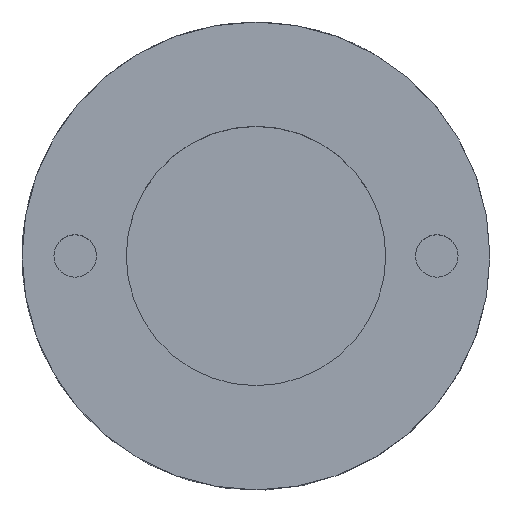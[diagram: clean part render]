
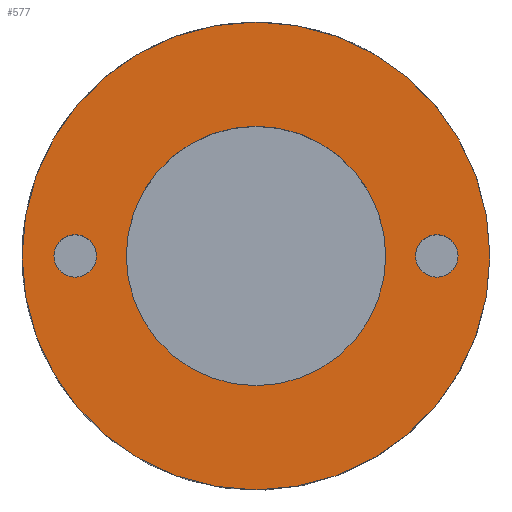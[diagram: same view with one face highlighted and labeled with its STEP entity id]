
A CAD part, top view. The second image highlights one B-rep face of the part: STEP entity #577.
In plain terms, the highlighted planar face has unit normal (0, 0, 1).
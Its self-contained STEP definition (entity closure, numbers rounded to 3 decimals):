
#24 = VERTEX_POINT('',#25);
#25 = CARTESIAN_POINT('',(5.5,0.,14.8));
#32 = CYLINDRICAL_SURFACE('',#33,5.5);
#33 = AXIS2_PLACEMENT_3D('',#34,#35,#36);
#34 = CARTESIAN_POINT('',(0.,0.,10.9));
#35 = DIRECTION('',(0.,0.,1.));
#36 = DIRECTION('',(1.,0.,-0.));
#51 = EDGE_CURVE('',#24,#24,#52,.T.);
#52 = SURFACE_CURVE('',#53,(#58,#65),.PCURVE_S1.);
#53 = CIRCLE('',#54,5.5);
#54 = AXIS2_PLACEMENT_3D('',#55,#56,#57);
#55 = CARTESIAN_POINT('',(0.,0.,14.8));
#56 = DIRECTION('',(0.,0.,1.));
#57 = DIRECTION('',(1.,0.,-0.));
#58 = PCURVE('',#32,#59);
#59 = DEFINITIONAL_REPRESENTATION('',(#60),#64);
#60 = LINE('',#61,#62);
#61 = CARTESIAN_POINT('',(0.,3.9));
#62 = VECTOR('',#63,1.);
#63 = DIRECTION('',(1.,0.));
#64 = ( GEOMETRIC_REPRESENTATION_CONTEXT(2) 
PARAMETRIC_REPRESENTATION_CONTEXT() REPRESENTATION_CONTEXT('2D SPACE',''
  ) );
#65 = PCURVE('',#66,#71);
#66 = PLANE('',#67);
#67 = AXIS2_PLACEMENT_3D('',#68,#69,#70);
#68 = CARTESIAN_POINT('',(0.,0.,14.8));
#69 = DIRECTION('',(0.,0.,1.));
#70 = DIRECTION('',(1.,0.,-0.));
#71 = DEFINITIONAL_REPRESENTATION('',(#72),#76);
#72 = CIRCLE('',#73,5.5);
#73 = AXIS2_PLACEMENT_2D('',#74,#75);
#74 = CARTESIAN_POINT('',(0.,0.));
#75 = DIRECTION('',(1.,0.));
#76 = ( GEOMETRIC_REPRESENTATION_CONTEXT(2) 
PARAMETRIC_REPRESENTATION_CONTEXT() REPRESENTATION_CONTEXT('2D SPACE',''
  ) );
#577 = ADVANCED_FACE('',(#578,#581,#612,#643),#66,.T.);
#578 = FACE_BOUND('',#579,.T.);
#579 = EDGE_LOOP('',(#580));
#580 = ORIENTED_EDGE('',*,*,#51,.T.);
#581 = FACE_BOUND('',#582,.T.);
#582 = EDGE_LOOP('',(#583));
#583 = ORIENTED_EDGE('',*,*,#584,.F.);
#584 = EDGE_CURVE('',#585,#585,#587,.T.);
#585 = VERTEX_POINT('',#586);
#586 = CARTESIAN_POINT('',(-3.75,0.,14.8));
#587 = SURFACE_CURVE('',#588,(#593,#600),.PCURVE_S1.);
#588 = CIRCLE('',#589,0.5);
#589 = AXIS2_PLACEMENT_3D('',#590,#591,#592);
#590 = CARTESIAN_POINT('',(-4.25,0.,14.8));
#591 = DIRECTION('',(0.,0.,1.));
#592 = DIRECTION('',(1.,0.,-0.));
#593 = PCURVE('',#66,#594);
#594 = DEFINITIONAL_REPRESENTATION('',(#595),#599);
#595 = CIRCLE('',#596,0.5);
#596 = AXIS2_PLACEMENT_2D('',#597,#598);
#597 = CARTESIAN_POINT('',(-4.25,0.));
#598 = DIRECTION('',(1.,0.));
#599 = ( GEOMETRIC_REPRESENTATION_CONTEXT(2) 
PARAMETRIC_REPRESENTATION_CONTEXT() REPRESENTATION_CONTEXT('2D SPACE',''
  ) );
#600 = PCURVE('',#601,#606);
#601 = CYLINDRICAL_SURFACE('',#602,0.5);
#602 = AXIS2_PLACEMENT_3D('',#603,#604,#605);
#603 = CARTESIAN_POINT('',(-4.25,0.,12.9));
#604 = DIRECTION('',(0.,0.,1.));
#605 = DIRECTION('',(1.,0.,-0.));
#606 = DEFINITIONAL_REPRESENTATION('',(#607),#611);
#607 = LINE('',#608,#609);
#608 = CARTESIAN_POINT('',(0.,1.9));
#609 = VECTOR('',#610,1.);
#610 = DIRECTION('',(1.,0.));
#611 = ( GEOMETRIC_REPRESENTATION_CONTEXT(2) 
PARAMETRIC_REPRESENTATION_CONTEXT() REPRESENTATION_CONTEXT('2D SPACE',''
  ) );
#612 = FACE_BOUND('',#613,.T.);
#613 = EDGE_LOOP('',(#614));
#614 = ORIENTED_EDGE('',*,*,#615,.F.);
#615 = EDGE_CURVE('',#616,#616,#618,.T.);
#616 = VERTEX_POINT('',#617);
#617 = CARTESIAN_POINT('',(3.05,0.,14.8));
#618 = SURFACE_CURVE('',#619,(#624,#631),.PCURVE_S1.);
#619 = CIRCLE('',#620,3.05);
#620 = AXIS2_PLACEMENT_3D('',#621,#622,#623);
#621 = CARTESIAN_POINT('',(0.,0.,14.8));
#622 = DIRECTION('',(0.,0.,1.));
#623 = DIRECTION('',(1.,0.,-0.));
#624 = PCURVE('',#66,#625);
#625 = DEFINITIONAL_REPRESENTATION('',(#626),#630);
#626 = CIRCLE('',#627,3.05);
#627 = AXIS2_PLACEMENT_2D('',#628,#629);
#628 = CARTESIAN_POINT('',(0.,0.));
#629 = DIRECTION('',(1.,0.));
#630 = ( GEOMETRIC_REPRESENTATION_CONTEXT(2) 
PARAMETRIC_REPRESENTATION_CONTEXT() REPRESENTATION_CONTEXT('2D SPACE',''
  ) );
#631 = PCURVE('',#632,#637);
#632 = CYLINDRICAL_SURFACE('',#633,3.05);
#633 = AXIS2_PLACEMENT_3D('',#634,#635,#636);
#634 = CARTESIAN_POINT('',(0.,0.,12.3));
#635 = DIRECTION('',(0.,0.,1.));
#636 = DIRECTION('',(1.,0.,-0.));
#637 = DEFINITIONAL_REPRESENTATION('',(#638),#642);
#638 = LINE('',#639,#640);
#639 = CARTESIAN_POINT('',(0.,2.5));
#640 = VECTOR('',#641,1.);
#641 = DIRECTION('',(1.,0.));
#642 = ( GEOMETRIC_REPRESENTATION_CONTEXT(2) 
PARAMETRIC_REPRESENTATION_CONTEXT() REPRESENTATION_CONTEXT('2D SPACE',''
  ) );
#643 = FACE_BOUND('',#644,.T.);
#644 = EDGE_LOOP('',(#645));
#645 = ORIENTED_EDGE('',*,*,#646,.F.);
#646 = EDGE_CURVE('',#647,#647,#649,.T.);
#647 = VERTEX_POINT('',#648);
#648 = CARTESIAN_POINT('',(4.75,0.,14.8));
#649 = SURFACE_CURVE('',#650,(#655,#662),.PCURVE_S1.);
#650 = CIRCLE('',#651,0.5);
#651 = AXIS2_PLACEMENT_3D('',#652,#653,#654);
#652 = CARTESIAN_POINT('',(4.25,0.,14.8));
#653 = DIRECTION('',(0.,0.,1.));
#654 = DIRECTION('',(1.,0.,-0.));
#655 = PCURVE('',#66,#656);
#656 = DEFINITIONAL_REPRESENTATION('',(#657),#661);
#657 = CIRCLE('',#658,0.5);
#658 = AXIS2_PLACEMENT_2D('',#659,#660);
#659 = CARTESIAN_POINT('',(4.25,0.));
#660 = DIRECTION('',(1.,0.));
#661 = ( GEOMETRIC_REPRESENTATION_CONTEXT(2) 
PARAMETRIC_REPRESENTATION_CONTEXT() REPRESENTATION_CONTEXT('2D SPACE',''
  ) );
#662 = PCURVE('',#663,#668);
#663 = CYLINDRICAL_SURFACE('',#664,0.5);
#664 = AXIS2_PLACEMENT_3D('',#665,#666,#667);
#665 = CARTESIAN_POINT('',(4.25,0.,12.9));
#666 = DIRECTION('',(0.,0.,1.));
#667 = DIRECTION('',(1.,0.,-0.));
#668 = DEFINITIONAL_REPRESENTATION('',(#669),#673);
#669 = LINE('',#670,#671);
#670 = CARTESIAN_POINT('',(0.,1.9));
#671 = VECTOR('',#672,1.);
#672 = DIRECTION('',(1.,0.));
#673 = ( GEOMETRIC_REPRESENTATION_CONTEXT(2) 
PARAMETRIC_REPRESENTATION_CONTEXT() REPRESENTATION_CONTEXT('2D SPACE',''
  ) );
